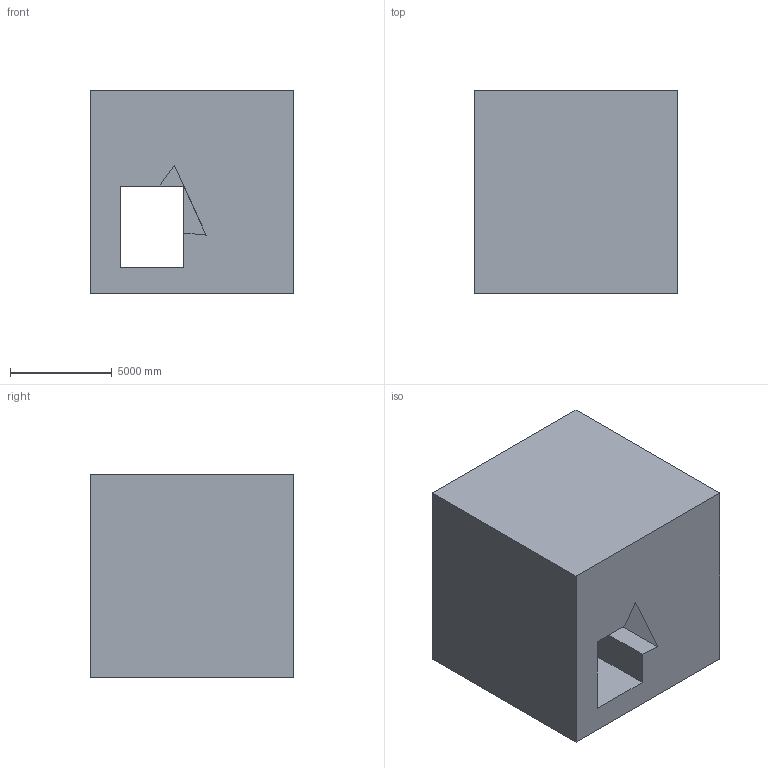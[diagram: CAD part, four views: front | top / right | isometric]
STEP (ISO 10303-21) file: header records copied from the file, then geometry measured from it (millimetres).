
FILE_DESCRIPTION (( 'STEP AP203' ), '1' );
FILE_NAME ('148.STEP', '2022-07-28T13:44:23', ( 'user' ), ( '' ), 'SwSTEP 2.0', 'SolidWorks 2021', '' );
FILE_SCHEMA (( 'CONFIG_CONTROL_DESIGN' ));
Length unit declared in the file: centimetre
Products named in the file (1): 148
Bounding box: 10000 x 10000 x 10000 mm (x, y, z)
Volume: 863380316076.8 mm3; surface area: 734236000.8 mm2
Topology: 1 solids, 1 shells, 15 faces, 37 edges, 24 vertices
Faces by surface type: plane 15
Entity records: 516 total; most frequent: CARTESIAN_POINT 77, ORIENTED_EDGE 74, DIRECTION 69, LINE 37, EDGE_CURVE 37, VECTOR 37, VERTEX_POINT 24, EDGE_LOOP 17
